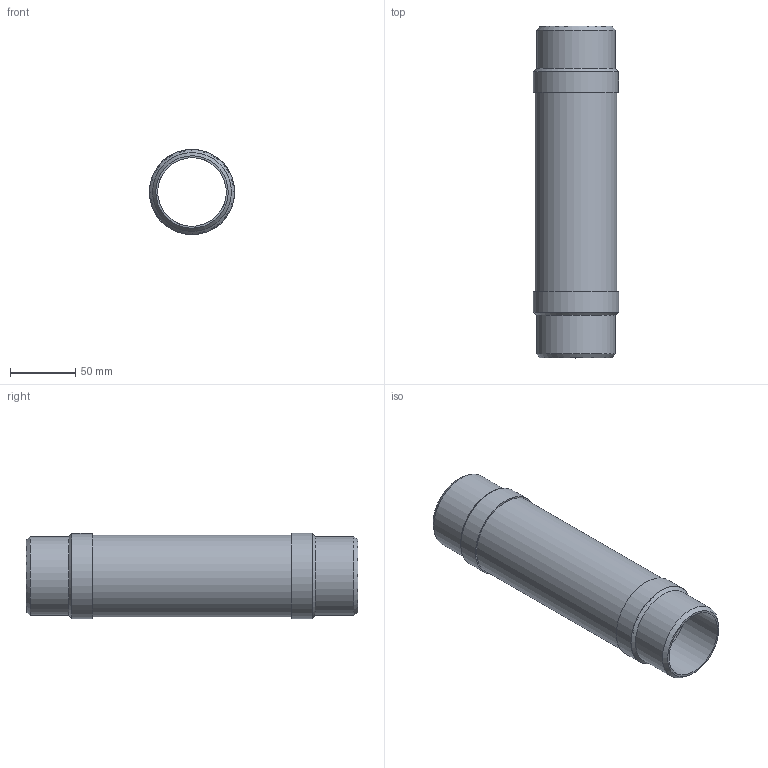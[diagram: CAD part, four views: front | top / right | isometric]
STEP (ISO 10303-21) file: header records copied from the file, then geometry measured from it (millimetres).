
FILE_DESCRIPTION(/* description */ (''),/* implementation_level */ '2;1');
FILE_NAME(/* name */ 'C:\001_Work\Designs\CSAWN\CSAWN-2x10.stp',/* time_stamp */ '2016-06-04T17:32:13-04:00',/* author */ ('rramoutar'),/* organization */ ('Mason Industries Inc.'),/* preprocessor_version */ 'ST-DEVELOPER v15.6',/* originating_system */ 'Autodesk Inventor 2015',/* authorisation */ '');
FILE_SCHEMA (('CONFIG_CONTROL_DESIGN'));
Length unit declared in the file: inch
Products named in the file (1): CSAWN-2x10
Bounding box: 65.17 x 254 x 65.17 mm (x, y, z)
Volume: 70406.7 mm3; surface area: 114346.6 mm2
Topology: 5 solids, 5 shells, 24 faces, 40 edges, 26 vertices
Faces by surface type: cylinder 10, plane 10, cone 4
Full cylindrical faces by diameter (mm): 52.502 x2, 60.325 x2, 61.976 x1, 62.789 x3, 65.17 x2
Entity records: 564 total; most frequent: DIRECTION 98, CARTESIAN_POINT 73, AXIS2_PLACEMENT_3D 49, EDGE_LOOP 48, ORIENTED_EDGE 48, STYLED_ITEM 29, FACE_BOUND 24, FACE_OUTER_BOUND 24
